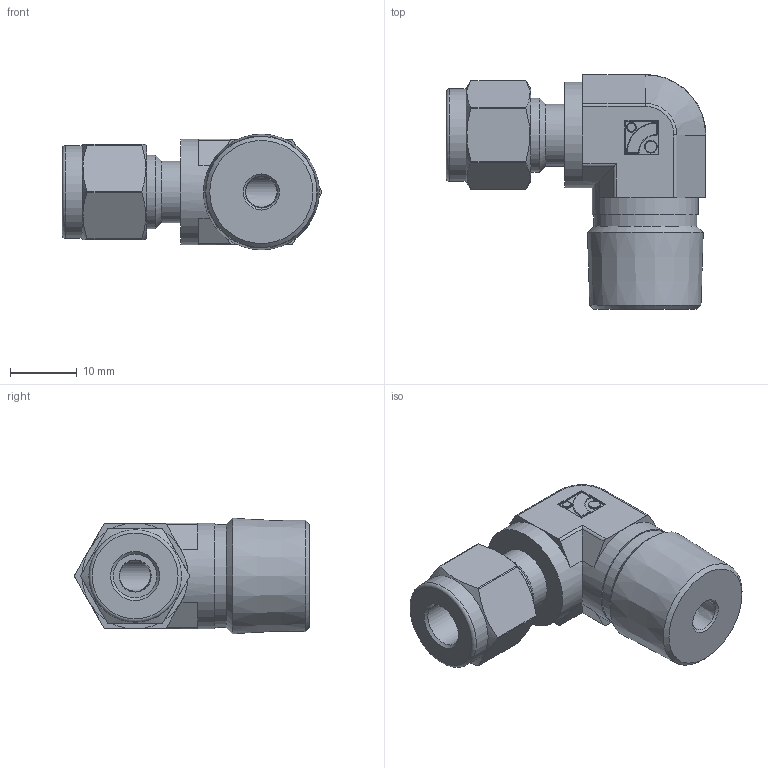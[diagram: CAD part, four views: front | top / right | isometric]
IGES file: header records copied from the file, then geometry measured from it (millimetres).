
Global section: file name: No Iges File Name specified; native system: Autodesk Inventor 2012; preprocessor: AutoDesk Inventor Iges Exporter R2012; author: 硅己绕,,1; organization: 1; date: 20150702.174845; units: millimetre
Bounding box: 39.05 x 35.3 x 17.39 mm (x, y, z)
Volume: 9427.5 mm3; surface area: 4285.5 mm2
Topology: 1 solids, 1 shells, 117 faces, 266 edges, 156 vertices
Faces by surface type: plane 42, cylinder 35, revolution 20, cone 8, torus 8, sphere 4
Full cylindrical faces by diameter (mm): 1.35 x1, 1.8 x1, 9.3 x1, 11.112 x1, 13.9 x1, 15.5 x1, 15.9 x2
